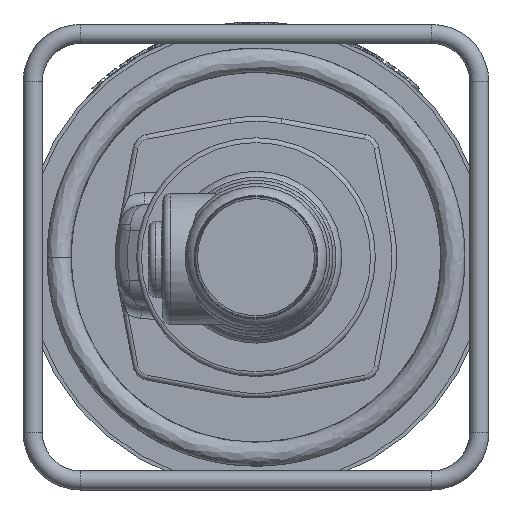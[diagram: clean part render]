
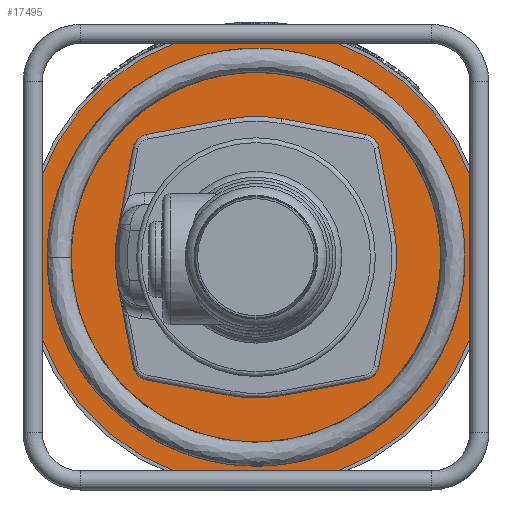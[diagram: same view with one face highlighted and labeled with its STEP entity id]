
A CAD part, left-side view. The second image highlights one B-rep face of the part: STEP entity #17495.
In plain terms, the highlighted planar face has unit normal (-1, 0, 0).
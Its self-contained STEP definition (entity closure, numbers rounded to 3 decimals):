
#127=FACE_BOUND('',#5640,.T.);
#1726=PLANE('',#18523);
#2626=LINE('',#39923,#3585);
#2630=LINE('',#39932,#3589);
#2633=LINE('',#39940,#3592);
#2636=LINE('',#39948,#3595);
#2639=LINE('',#39956,#3598);
#2642=LINE('',#39964,#3601);
#2645=LINE('',#39972,#3604);
#2649=LINE('',#39982,#3608);
#3585=VECTOR('',#21244,10.);
#3589=VECTOR('',#21254,10.);
#3592=VECTOR('',#21263,10.);
#3595=VECTOR('',#21272,10.);
#3598=VECTOR('',#21281,10.);
#3601=VECTOR('',#21290,10.);
#3604=VECTOR('',#21299,10.);
#3608=VECTOR('',#21309,10.);
#4611=FACE_OUTER_BOUND('',#5639,.T.);
#5639=EDGE_LOOP('',(#15061));
#5640=EDGE_LOOP('',(#15062,#15063,#15064,#15065,#15066,#15067,#15068,#15069,
#15070,#15071,#15072,#15073,#15074,#15075,#15076,#15077));
#6162=CIRCLE('',#18412,7.);
#6163=CIRCLE('',#18415,59.);
#6164=CIRCLE('',#18418,7.);
#6165=CIRCLE('',#18421,59.);
#6166=CIRCLE('',#18424,7.);
#6167=CIRCLE('',#18427,59.);
#6168=CIRCLE('',#18430,7.);
#6171=CIRCLE('',#18437,59.);
#6223=CIRCLE('',#18524,96.);
#7827=VERTEX_POINT('',#39920);
#7828=VERTEX_POINT('',#39922);
#7829=VERTEX_POINT('',#39926);
#7830=VERTEX_POINT('',#39930);
#7831=VERTEX_POINT('',#39934);
#7832=VERTEX_POINT('',#39938);
#7833=VERTEX_POINT('',#39942);
#7834=VERTEX_POINT('',#39946);
#7835=VERTEX_POINT('',#39950);
#7836=VERTEX_POINT('',#39954);
#7837=VERTEX_POINT('',#39958);
#7838=VERTEX_POINT('',#39962);
#7839=VERTEX_POINT('',#39966);
#7840=VERTEX_POINT('',#39970);
#7841=VERTEX_POINT('',#39974);
#7843=VERTEX_POINT('',#39980);
#7906=VERTEX_POINT('',#40756);
#10167=EDGE_CURVE('',#7828,#7827,#2626,.T.);
#10170=EDGE_CURVE('',#7827,#7829,#6162,.T.);
#10172=EDGE_CURVE('',#7829,#7830,#2630,.T.);
#10174=EDGE_CURVE('',#7830,#7831,#6163,.T.);
#10176=EDGE_CURVE('',#7831,#7832,#2633,.T.);
#10178=EDGE_CURVE('',#7832,#7833,#6164,.T.);
#10180=EDGE_CURVE('',#7833,#7834,#2636,.T.);
#10182=EDGE_CURVE('',#7834,#7835,#6165,.T.);
#10184=EDGE_CURVE('',#7835,#7836,#2639,.T.);
#10186=EDGE_CURVE('',#7836,#7837,#6166,.T.);
#10188=EDGE_CURVE('',#7837,#7838,#2642,.T.);
#10190=EDGE_CURVE('',#7838,#7839,#6167,.T.);
#10192=EDGE_CURVE('',#7839,#7840,#2645,.T.);
#10194=EDGE_CURVE('',#7840,#7841,#6168,.T.);
#10197=EDGE_CURVE('',#7841,#7843,#2649,.T.);
#10207=EDGE_CURVE('',#7843,#7828,#6171,.T.);
#10307=EDGE_CURVE('',#7906,#7906,#6223,.T.);
#15061=ORIENTED_EDGE('',*,*,#10307,.F.);
#15062=ORIENTED_EDGE('',*,*,#10167,.T.);
#15063=ORIENTED_EDGE('',*,*,#10170,.T.);
#15064=ORIENTED_EDGE('',*,*,#10172,.T.);
#15065=ORIENTED_EDGE('',*,*,#10174,.T.);
#15066=ORIENTED_EDGE('',*,*,#10176,.T.);
#15067=ORIENTED_EDGE('',*,*,#10178,.T.);
#15068=ORIENTED_EDGE('',*,*,#10180,.T.);
#15069=ORIENTED_EDGE('',*,*,#10182,.T.);
#15070=ORIENTED_EDGE('',*,*,#10184,.T.);
#15071=ORIENTED_EDGE('',*,*,#10186,.T.);
#15072=ORIENTED_EDGE('',*,*,#10188,.T.);
#15073=ORIENTED_EDGE('',*,*,#10190,.T.);
#15074=ORIENTED_EDGE('',*,*,#10192,.T.);
#15075=ORIENTED_EDGE('',*,*,#10194,.T.);
#15076=ORIENTED_EDGE('',*,*,#10197,.T.);
#15077=ORIENTED_EDGE('',*,*,#10207,.T.);
#17495=ADVANCED_FACE('',(#4611,#127),#1726,.F.);
#18412=AXIS2_PLACEMENT_3D('',#39928,#21249,#21250);
#18415=AXIS2_PLACEMENT_3D('',#39936,#21258,#21259);
#18418=AXIS2_PLACEMENT_3D('',#39944,#21267,#21268);
#18421=AXIS2_PLACEMENT_3D('',#39952,#21276,#21277);
#18424=AXIS2_PLACEMENT_3D('',#39960,#21285,#21286);
#18427=AXIS2_PLACEMENT_3D('',#39968,#21294,#21295);
#18430=AXIS2_PLACEMENT_3D('',#39976,#21303,#21304);
#18437=AXIS2_PLACEMENT_3D('',#40019,#21322,#21323);
#18523=AXIS2_PLACEMENT_3D('',#40755,#21512,#21513);
#18524=AXIS2_PLACEMENT_3D('',#40757,#21514,#21515);
#21244=DIRECTION('',(0.,-0.184,0.983));
#21249=DIRECTION('center_axis',(1.,0.,0.));
#21250=DIRECTION('ref_axis',(0.,0.809,-0.588));
#21254=DIRECTION('',(0.,-0.983,0.184));
#21258=DIRECTION('center_axis',(1.,0.,0.));
#21259=DIRECTION('ref_axis',(0.,0.,
1.));
#21263=DIRECTION('',(0.,-0.983,-0.184));
#21267=DIRECTION('center_axis',(1.,0.,0.));
#21268=DIRECTION('ref_axis',(0.,0.588,0.809));
#21272=DIRECTION('',(0.,-0.184,-0.983));
#21276=DIRECTION('center_axis',(1.,0.,0.));
#21277=DIRECTION('ref_axis',(0.,0.,
1.));
#21281=DIRECTION('',(0.,0.184,-0.983));
#21285=DIRECTION('center_axis',(1.,0.,0.));
#21286=DIRECTION('ref_axis',(0.,-0.809,0.588));
#21290=DIRECTION('',(0.,0.983,-0.184));
#21294=DIRECTION('center_axis',(1.,0.,0.));
#21295=DIRECTION('ref_axis',(0.,0.,
1.));
#21299=DIRECTION('',(0.,0.983,0.184));
#21303=DIRECTION('center_axis',(1.,0.,0.));
#21304=DIRECTION('ref_axis',(0.,-0.588,-0.809));
#21309=DIRECTION('',(0.,0.184,0.983));
#21322=DIRECTION('center_axis',(1.,0.,0.));
#21323=DIRECTION('ref_axis',(0.,0.,
1.));
#21512=DIRECTION('center_axis',(1.,0.,0.));
#21513=DIRECTION('ref_axis',(0.,1.,0.));
#21514=DIRECTION('center_axis',(1.,0.,0.));
#21515=DIRECTION('ref_axis',(0.,1.,0.));
#39920=CARTESIAN_POINT('',(0.,51.428,45.839));
#39922=CARTESIAN_POINT('',(0.,57.988,10.882));
#39923=CARTESIAN_POINT('',(0.,54.708,28.361));
#39926=CARTESIAN_POINT('',(0.,45.839,51.428));
#39928=CARTESIAN_POINT('Origin',(0.,44.548,
44.548));
#39930=CARTESIAN_POINT('',(0.,10.882,57.988));
#39932=CARTESIAN_POINT('',(0.,10.882,57.988));
#39934=CARTESIAN_POINT('',(0.,-10.882,57.988));
#39936=CARTESIAN_POINT('Origin',(0.,0.,
0.));
#39938=CARTESIAN_POINT('',(0.,-45.839,51.428));
#39940=CARTESIAN_POINT('',(0.,-10.882,57.988));
#39942=CARTESIAN_POINT('',(0.,-51.428,45.839));
#39944=CARTESIAN_POINT('Origin',(0.,-44.548,
44.548));
#39946=CARTESIAN_POINT('',(0.,-57.988,10.882));
#39948=CARTESIAN_POINT('',(0.,-54.708,28.361));
#39950=CARTESIAN_POINT('',(0.,-57.988,-10.882));
#39952=CARTESIAN_POINT('Origin',(0.,0.,
0.));
#39954=CARTESIAN_POINT('',(0.,-51.428,-45.839));
#39956=CARTESIAN_POINT('',(0.,-54.708,-28.361));
#39958=CARTESIAN_POINT('',(0.,-45.839,-51.428));
#39960=CARTESIAN_POINT('Origin',(0.,-44.548,
-44.548));
#39962=CARTESIAN_POINT('',(0.,-10.882,-57.988));
#39964=CARTESIAN_POINT('',(0.,-10.882,-57.988));
#39966=CARTESIAN_POINT('',(0.,10.882,-57.988));
#39968=CARTESIAN_POINT('Origin',(0.,0.,
0.));
#39970=CARTESIAN_POINT('',(0.,45.839,-51.428));
#39972=CARTESIAN_POINT('',(0.,10.882,-57.988));
#39974=CARTESIAN_POINT('',(0.,51.428,-45.839));
#39976=CARTESIAN_POINT('Origin',(0.,44.548,
-44.548));
#39980=CARTESIAN_POINT('',(0.,57.988,-10.882));
#39982=CARTESIAN_POINT('',(0.,54.708,-28.361));
#40019=CARTESIAN_POINT('Origin',(0.,0.,
0.));
#40755=CARTESIAN_POINT('Origin',(0.,0.,
0.));
#40756=CARTESIAN_POINT('',(0.,-96.,0.));
#40757=CARTESIAN_POINT('Origin',(0.,0.,
0.));
